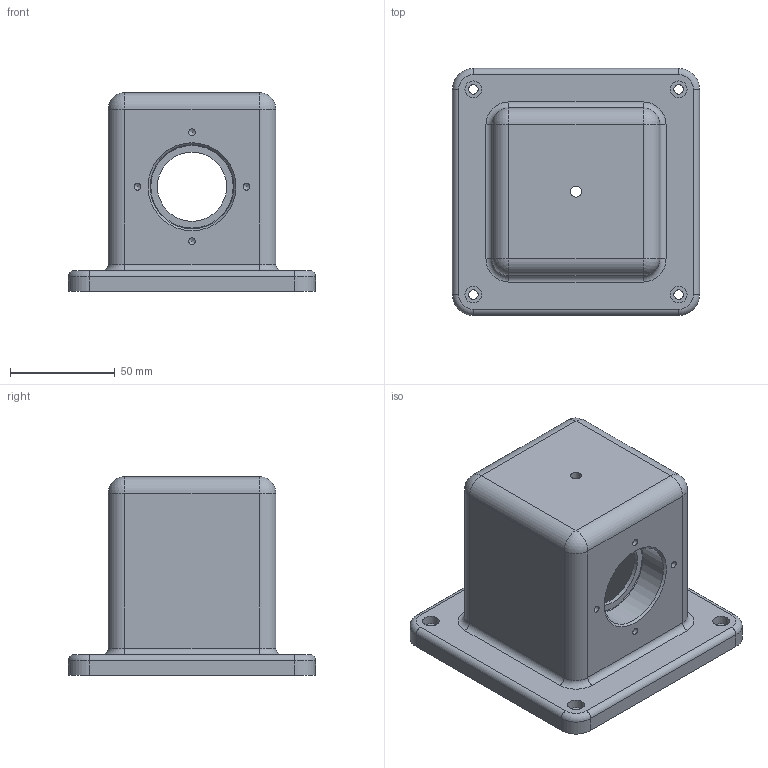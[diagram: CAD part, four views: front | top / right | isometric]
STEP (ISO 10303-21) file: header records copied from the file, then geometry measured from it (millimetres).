
FILE_DESCRIPTION(/* description */ (''),/* implementation_level */ '2;1');
FILE_NAME(/* name */ 'C:\Users\10-503\Desktop\391103E1016\391103E1016-본체.stp',/* time_stamp */ '2019-11-16T11:55:46+09:00',/* author */ ('10-503'),/* organization */ (''),/* preprocessor_version */ 'ST-DEVELOPER v16.1',/* originating_system */ 'Autodesk Inventor 2016',/* authorisation */ '');
FILE_SCHEMA (('AUTOMOTIVE_DESIGN { 1 0 10303 214 3 1 1 }'));
Length unit declared in the file: millimetre
Products named in the file (1): 본체
Bounding box: 118 x 118 x 95 mm (x, y, z)
Volume: 396459.6 mm3; surface area: 75673.6 mm2
Topology: 1 solids, 1 shells, 99 faces, 218 edges, 129 vertices
Faces by surface type: cylinder 49, plane 22, cone 10, torus 10, sphere 8
Full cylindrical faces by diameter (mm): 3.242 x8, 4.5 x4, 5.188 x1, 8 x4, 33 x2, 40 x2
Entity records: 2498 total; most frequent: DIRECTION 484, CARTESIAN_POINT 392, ORIENTED_EDGE 348, AXIS2_PLACEMENT_3D 210, EDGE_CURVE 174, EDGE_LOOP 154, VERTEX_POINT 118, CIRCLE 110
